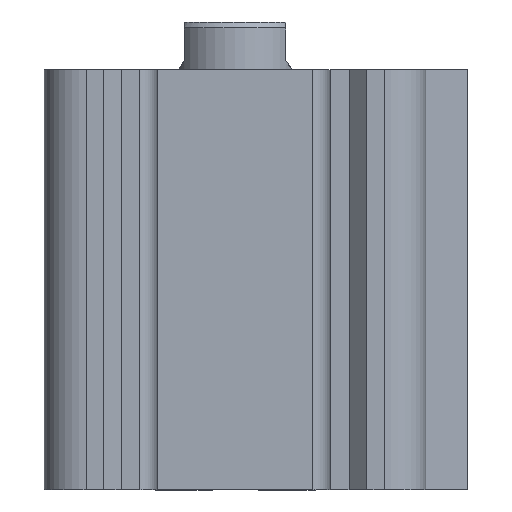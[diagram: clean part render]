
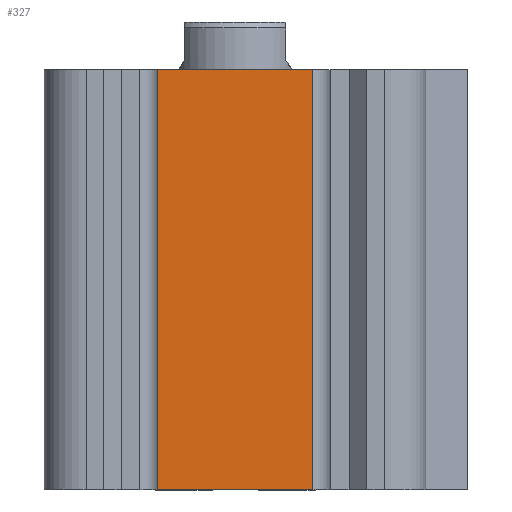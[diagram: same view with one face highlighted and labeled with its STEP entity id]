
A CAD part, front view. The second image highlights one B-rep face of the part: STEP entity #327.
In plain terms, the highlighted planar face has unit normal (0, -1, 0).
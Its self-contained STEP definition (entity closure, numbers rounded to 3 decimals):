
#327 = ADVANCED_FACE( '', ( #733 ), #734, .T. );
#733 = FACE_OUTER_BOUND( '', #1233, .T. );
#734 = PLANE( '', #1234 );
#1233 = EDGE_LOOP( '', ( #2000, #2001, #2002, #2003 ) );
#1234 = AXIS2_PLACEMENT_3D( '', #2004, #2005, #2006 );
#2000 = ORIENTED_EDGE( '', *, *, #2755, .F. );
#2001 = ORIENTED_EDGE( '', *, *, #2842, .F. );
#2002 = ORIENTED_EDGE( '', *, *, #2843, .T. );
#2003 = ORIENTED_EDGE( '', *, *, #2723, .T. );
#2004 = CARTESIAN_POINT( '', ( -13., -29., -70.5 ) );
#2005 = DIRECTION( '', ( 0., -1., 0. ) );
#2006 = DIRECTION( '', ( 0., 0., -1. ) );
#2723 = EDGE_CURVE( '', #3217, #3214, #3218, .T. );
#2755 = EDGE_CURVE( '', #3269, #3214, #3271, .T. );
#2842 = EDGE_CURVE( '', #3409, #3269, #3410, .T. );
#2843 = EDGE_CURVE( '', #3409, #3217, #3411, .T. );
#3214 = VERTEX_POINT( '', #3884 );
#3217 = VERTEX_POINT( '', #3888 );
#3218 = LINE( '', #3889, #3890 );
#3269 = VERTEX_POINT( '', #3951 );
#3271 = LINE( '', #3954, #3955 );
#3409 = VERTEX_POINT( '', #4148 );
#3410 = LINE( '', #4149, #4150 );
#3411 = LINE( '', #4151, #4152 );
#3884 = CARTESIAN_POINT( '', ( 13., -29., 0. ) );
#3888 = CARTESIAN_POINT( '', ( 13., -29., -70.5 ) );
#3889 = CARTESIAN_POINT( '', ( 13., -29., -70.5 ) );
#3890 = VECTOR( '', #4568, 1000. );
#3951 = CARTESIAN_POINT( '', ( -13., -29., 0. ) );
#3954 = CARTESIAN_POINT( '', ( -13., -29., 0. ) );
#3955 = VECTOR( '', #4619, 1000. );
#4148 = CARTESIAN_POINT( '', ( -13., -29., -70.5 ) );
#4149 = CARTESIAN_POINT( '', ( -13., -29., -70.5 ) );
#4150 = VECTOR( '', #4727, 1000. );
#4151 = CARTESIAN_POINT( '', ( -13., -29., -70.5 ) );
#4152 = VECTOR( '', #4728, 1000. );
#4568 = DIRECTION( '', ( 0., 0., 1. ) );
#4619 = DIRECTION( '', ( 1., 0., 0. ) );
#4727 = DIRECTION( '', ( 0., 0., 1. ) );
#4728 = DIRECTION( '', ( 1., 0., 0. ) );
